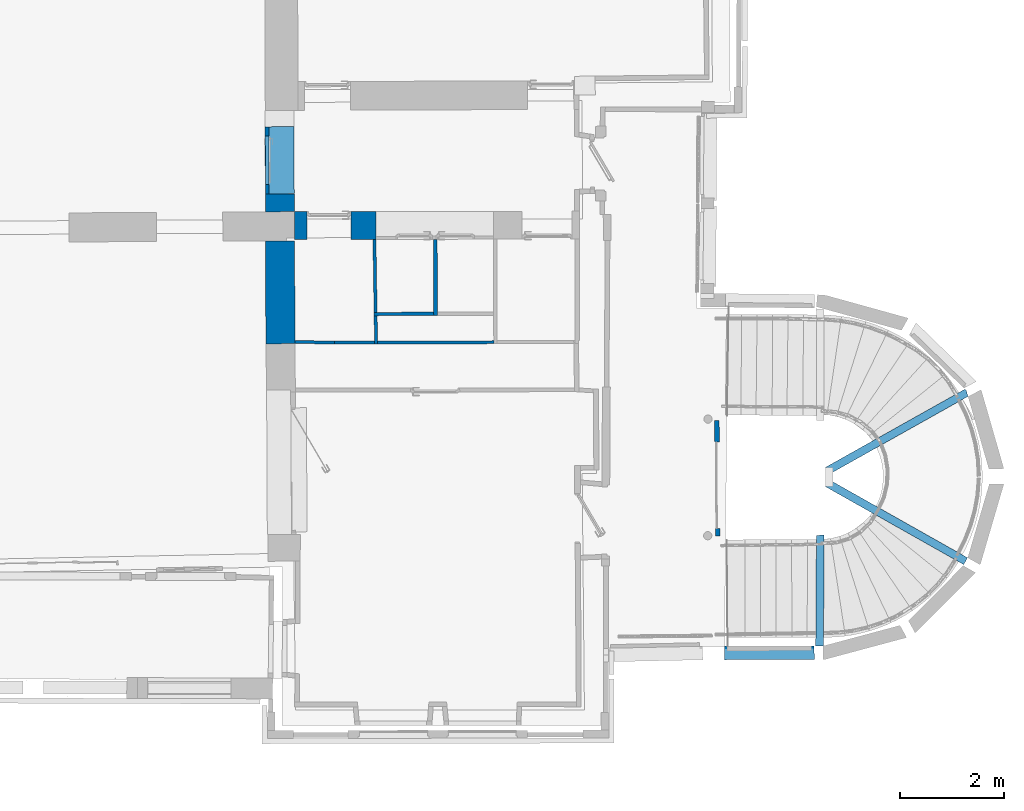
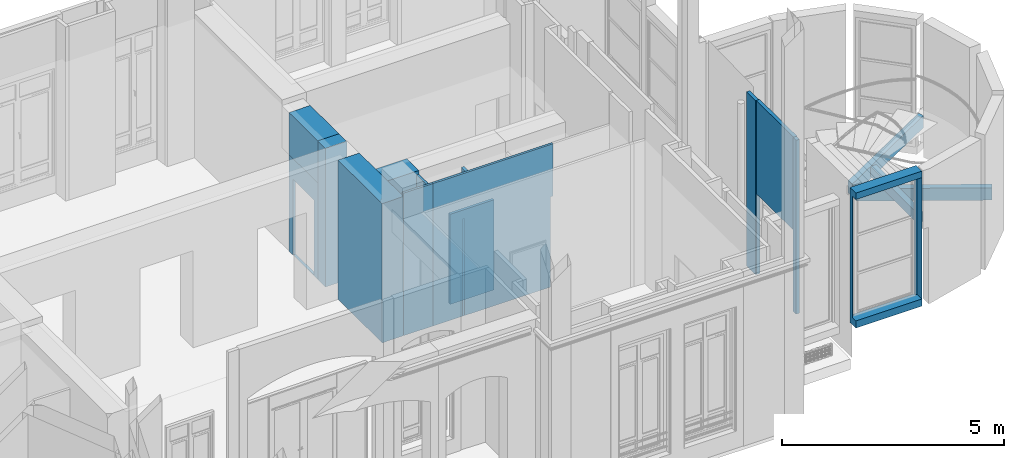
# One storey, part 15 of 97: 17 walls, 4 openings.
"""IFC2X3 building model written with IfcOpenShell, lengths in centimetres."""

from ifc_helpers import new_model, entity, si_unit, converted_unit, direction, frame, origin, origin_with_axes, place, context, subcontext, project, spatial, polyline, outline, extrude, clip, bounded_halfspace, faceted_brep, shape, material, layer, layer_set, layer_usage, type_object, element, save


model = new_model("IFC2X3")

# Units and contexts
model_context = context("Model", 3, precision=0.0001, world=origin(), true_north=direction((0.225632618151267, 0.974212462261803, 0.0)))
body_context = subcontext(model_context, "Body", "Model", "MODEL_VIEW")
footprint_context = subcontext(model_context, "FootPrint", "Model", "MODEL_VIEW")
profile_context = subcontext(model_context, "Profile", "Model", "MODEL_VIEW")
ifc_project = project(units=[si_unit("LENGTHUNIT", "METRE", prefix="CENTI"), si_unit("AREAUNIT", "SQUARE_METRE", prefix="CENTI"), si_unit("VOLUMEUNIT", "CUBIC_METRE", prefix="CENTI"), converted_unit("PLANEANGLEUNIT", "DEGREE", entity("IfcRatioMeasure", 0.0174532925), si_unit("PLANEANGLEUNIT", "RADIAN"), dimensions=[0, 0, 0, 0, 0, 0, 0])], contexts=[model_context])

# Site, building, storey
site_placement = place(None, origin_with_axes())
site = spatial("IfcSite", under=ifc_project, at=site_placement, Name="Default Site", CompositionType="ELEMENT")
building_placement = place(site_placement, origin_with_axes())
building = spatial("IfcBuilding", under=site, at=building_placement, Name="Default Building", CompositionType="ELEMENT")
storey_placement = place(building_placement, origin_with_axes())
storey = spatial("IfcBuildingStorey", under=building, at=storey_placement, Name="Rez-de-chaussée", CompositionType="ELEMENT", Elevation=0.0)

# Wall, opening
ifc_material = material(Name="<aucun>")
ifc_layer_1 = layer(ifc_material, 26.0)
ifc_layer_set_1 = layer_set([ifc_layer_1], Name="default")
ifc_layer_usage_1 = layer_usage(ifc_layer_set_1, "AXIS2", "POSITIVE", -13.0)
wall_type_1 = type_object("IfcWallType", Name="default 260", PredefinedType="NOTDEFINED", material=ifc_layer_set_1)
wall_1_placement = place(storey_placement, frame((1116.61177185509, -885.677420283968, 100.0), z_axis=(0.0, 0.0, 1.0), x_axis=(0.999994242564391, 0.0033933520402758, 0.0)))
wall_1 = element("IfcWallStandardCase", 1, at=wall_1_placement, inside=storey, type_object=wall_type_1, material=ifc_layer_usage_1, Name="Enveloppe 531149", context=body_context, shape_type="SweptSolid", body=[
    extrude(outline(polyline([(-0.107546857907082, 13.0054665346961), (0.164133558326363, -12.9997790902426), (172.280696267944, -13.0000000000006), (172.280696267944, 12.9999999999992), (-0.107546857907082, 13.0054665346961)])), frame((0.0, 0.0, 2.22044604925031e-14), z_axis=(0.0, 0.0, 1.0), x_axis=(1.0, 0.0, 0.0)), (0.0, 0.0, 1.0), 370.795358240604),
])
opening_1_placement = place(wall_1_placement, frame((0.0, 0.0, 19.7999999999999), z_axis=(0.0, 0.0, 1.0), x_axis=(-1.0, 1.42767742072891e-15, 0.0)))
cartesian_point_1 = entity("IfcCartesianPoint", [0.0, 0.0, 333.0])
cartesian_point_2 = entity("IfcCartesianPoint", [-171.871488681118, -13.0000000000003])
element("IfcOpeningElement", 2, at=opening_1_placement, cuts=wall_1, Name="4294966538_11", ObjectType="Opening", shapes=[
    shape(body_context, "Body", "Brep", [faceted_brep([(-4.99996666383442, -32.9999876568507, 332.999987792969), (-166.871473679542, -32.999987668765, 332.999987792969), (-166.871473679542, -32.999987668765, -4.57763675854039e-06), (-4.99996666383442, -32.9999876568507, -4.57763675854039e-06), (2.43071463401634e-05, 33.0000042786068, -4.57763675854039e-06), (-171.871483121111, 33.0000042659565, -4.57763675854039e-06), (-171.871483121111, 33.0000042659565, 332.999987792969), (2.43071463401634e-05, 33.0000042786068, 332.999987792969), (-4.9999666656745, -8.00003430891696, -4.57763675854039e-06), (-4.9999666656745, -8.00003430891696, 332.999987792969), (-5.00001003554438, -8.00003430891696, 332.999987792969), (-5.00001003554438, -8.00003430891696, -4.57763675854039e-06), (3.78541720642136e-05, -8.00003430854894, -4.57763675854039e-06), (3.78541720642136e-05, -8.00003430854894, 332.999987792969), (3.78541720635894e-05, -8.00002582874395, 332.999987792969), (3.78541720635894e-05, -8.00002582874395, -4.57763675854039e-06), (3.78511543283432e-05, 33.0000042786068, -4.57763675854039e-06), (3.78511543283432e-05, 33.0000042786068, 332.999987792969), (-166.871473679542, -33.0000170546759, -4.57763675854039e-06), (-166.871516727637, -7.99996833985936, -4.57763675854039e-06), (-171.87146925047, -7.99997714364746, -4.57763675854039e-06), (-171.871483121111, 32.9999575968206, -4.57763675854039e-06), (-166.871473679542, -33.0000170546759, 332.999987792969), (-166.871473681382, -7.99996833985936, 332.999987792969), (-166.871473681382, -7.99996833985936, -4.57763675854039e-06), (-166.871516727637, -7.99996833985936, 332.999987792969), (-171.87146925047, -7.99996834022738, 332.999987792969), (-171.87146925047, -7.99996834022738, -4.57763675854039e-06), (-171.87146925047, -7.99997714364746, 332.999987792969), (-171.871469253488, 32.9999575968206, 332.999987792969), (-171.871469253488, 32.9999575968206, -4.57763675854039e-06), (-171.871483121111, 32.9999575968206, 332.999987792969)], [[[0, 1, 2, 3]], [[4, 5, 6, 7]], [[0, 3, 8, 9]], [[10, 11, 12, 13]], [[14, 15, 16, 17]], [[3, 18, 19, 20, 21, 4, 15, 11]], [[18, 22, 23, 24]], [[19, 25, 26, 27]], [[20, 28, 29, 30]], [[10, 14, 7, 31, 28, 25, 22, 0]]])]),
    shape(profile_context, "Profile", "GeometricCurveSet", [entity("IfcGeometricCurveSet", [entity("IfcPolyline", [cartesian_point_1, entity("IfcCartesianPoint", [0.0, 0.0, -4.44089209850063e-14]), entity("IfcCartesianPoint", [-171.871488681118, -1.77635683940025e-13, -4.44089209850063e-14]), entity("IfcCartesianPoint", [-171.871488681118, -1.77635683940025e-13, 333.0]), cartesian_point_1])])]),
    shape(footprint_context, "FootPrint", "GeometricCurveSet", [entity("IfcGeometricCurveSet", [entity("IfcPolyline", [cartesian_point_2, entity("IfcCartesianPoint", [0.0, -13.0000000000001]), entity("IfcCartesianPoint", [-1.77635683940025e-13, 13.0000000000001]), entity("IfcCartesianPoint", [-171.871488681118, 13.0000000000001]), cartesian_point_2])])]),
])

ifc_layer_2 = layer(ifc_material, 9.0)
ifc_layer_set_2 = layer_set([ifc_layer_2], Name="default")
ifc_layer_usage_2 = layer_usage(ifc_layer_set_2, "AXIS2", "POSITIVE", -4.5)
wall_type_2 = type_object("IfcWallType", Name="default 90", PredefinedType="NOTDEFINED", material=ifc_layer_set_2)
wall_2_placement = place(storey_placement, frame((1104.95836536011, -647.041932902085, 0.0128503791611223), z_axis=(0.0, 0.0, 1.0), x_axis=(-0.00608463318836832, 0.999981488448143, 0.0)))
wall_2 = element("IfcWallStandardCase", 3, at=wall_2_placement, inside=storey, type_object=wall_type_2, material=ifc_layer_usage_2, Name="Enveloppe 709104", context=body_context, shape_type="SweptSolid", body=[
    extrude(outline(polyline([(-0.0787459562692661, 6.08890522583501), (-0.0504592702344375, -2.91150742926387), (8.88178419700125e-14, -2.91181446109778), (8.88178419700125e-14, -4.50000000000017), (166.455327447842, -4.5000000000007), (166.455327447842, 4.49999999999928), (0.0262404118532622, 4.49999999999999), (0.0212479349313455, 6.08829678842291), (-0.0787459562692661, 6.08890522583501)])), frame((0.0, 0.0, 2.71050543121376e-18), z_axis=(0.0, 0.0, 1.0), x_axis=(1.0, 0.0, 0.0)), (0.0, 0.0, 1.0), 477.795358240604),
])
opening_2_placement = place(wall_2_placement, frame((0.0, 0.0, 1.73472347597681e-18), z_axis=(0.0, 0.0, 1.0), x_axis=(-1.0, 3.53102963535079e-15, 0.0)))
cartesian_point_3 = entity("IfcCartesianPoint", [0.0, 0.0, 221.6])
cartesian_point_4 = entity("IfcCartesianPoint", [-165.996074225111, -4.49999999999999])
element("IfcOpeningElement", 4, at=opening_2_placement, cuts=wall_2, Name="Baie 1527283", ObjectType="Opening", shapes=[
    shape(body_context, "Body", "SweptSolid", [extrude(outline(polyline([(0.0, 221.6), (0.0, 0.0), (165.996074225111, 0.0), (165.996074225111, 221.6), (0.0, 221.6)])), frame((0.0, -14.5, 0.0), z_axis=(0.0, 1.0, 0.0), x_axis=(-1.0, 0.0, 0.0)), (0.0, 0.0, 1.0), 29.0)]),
    shape(profile_context, "Profile", "GeometricCurveSet", [entity("IfcGeometricCurveSet", [entity("IfcPolyline", [cartesian_point_3, entity("IfcCartesianPoint", [0.0, 0.0, 0.0]), entity("IfcCartesianPoint", [-165.996074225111, 1.77635683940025e-13, 0.0]), entity("IfcCartesianPoint", [-165.996074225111, 1.77635683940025e-13, 221.6]), cartesian_point_3])])]),
    shape(footprint_context, "FootPrint", "GeometricCurveSet", [entity("IfcGeometricCurveSet", [entity("IfcPolyline", [cartesian_point_4, entity("IfcCartesianPoint", [0.0, -4.50000000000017]), entity("IfcCartesianPoint", [0.0, 4.49999999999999]), entity("IfcCartesianPoint", [-165.996074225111, 4.50000000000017]), cartesian_point_4])])]),
])

# Walls
ifc_layer_usage_3 = layer_usage(ifc_layer_set_2, "AXIS2", "POSITIVE", -4.5)
wall_3_placement = place(storey_placement, frame((1102.38784192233, -480.578431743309, 0.0128503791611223), z_axis=(0.0, 0.0, 1.0), x_axis=(-0.0131304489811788, 0.999913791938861, 0.0)))
element("IfcWallStandardCase", 5, at=wall_3_placement, inside=storey, type_object=wall_type_2, material=ifc_layer_usage_3, Name="Enveloppe 709039", context=body_context, shape_type="SweptSolid", body=[
    extrude(outline(polyline([(40.9655671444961, 4.49999999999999), (-1.77635683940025e-13, 4.50000000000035), (-0.052441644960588, -4.49999999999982), (40.8686691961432, -4.50233963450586), (40.9655671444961, 4.49999999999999)])), origin_with_axes(), (0.0, 0.0, 1.0), 477.795358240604),
])
ifc_layer_usage_4 = layer_usage(ifc_layer_set_2, "AXIS2", "POSITIVE", -4.5)
wall_4_placement = place(storey_placement, frame((1103.57933822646, -669.715925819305, 0.0128503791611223), z_axis=(0.0, 0.0, 1.0), x_axis=(-0.00922781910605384, 0.999957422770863, 0.0)))
element("IfcWallStandardCase", 6, at=wall_4_placement, inside=storey, type_object=wall_type_2, material=ifc_layer_usage_4, Name="Enveloppe 1528099", context=body_context, shape_type="SweptSolid", body=[
    extrude(outline(polyline([(22.6006871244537, 4.50000000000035), (9.08167034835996, 4.50000000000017), (9.04301342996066, -4.49999999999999), (22.6006871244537, -4.49999999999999), (22.6006871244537, 4.50000000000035)])), frame((0.0, 0.0, -3.10867867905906e-13), z_axis=(0.0, 0.0, 1.0), x_axis=(1.0, 0.0, 0.0)), (0.0, 0.0, 1.0), 477.795358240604),
])
ifc_layer_3 = layer(ifc_material, 15.0)
ifc_layer_set_3 = layer_set([ifc_layer_3], Name="default")
ifc_layer_usage_5 = layer_usage(ifc_layer_set_3, "AXIS2", "POSITIVE", -7.5)
wall_type_3 = type_object("IfcWallType", Name="default 150", PredefinedType="NOTDEFINED", material=ifc_layer_set_3)
wall_5_placement = place(storey_placement, frame((1313.89416104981, -535.964667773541, 180.0), z_axis=(0.0, 0.0, 1.0), x_axis=(0.872240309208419, 0.489077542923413, 0.0)))
element("IfcWallStandardCase", 7, at=wall_5_placement, inside=storey, type_object=wall_type_3, material=ifc_layer_usage_5, Name="Enveloppe 680482", context=body_context, shape_type="SweptSolid", body=[
    extrude(outline(polyline([(0.0, 7.50000000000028), (-8.37658710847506, -7.49999999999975), (305.479179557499, -7.50000000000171), (308.227331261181, 4.18805006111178), (307.24358979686, 7.49999999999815), (0.0, 7.50000000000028)])), origin_with_axes(), (0.0, 0.0, 1.0), 33.795358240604),
])
ifc_layer_usage_6 = layer_usage(ifc_layer_set_3, "AXIS2", "POSITIVE", -7.5)
wall_6_placement = place(storey_placement, frame((1579.44900561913, -709.420802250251, 180.0), z_axis=(0.0, 0.0, 1.0), x_axis=(-0.870947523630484, 0.491376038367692, 0.0)))
element("IfcWallStandardCase", 8, at=wall_6_placement, inside=storey, type_object=wall_type_3, material=ifc_layer_usage_6, Name="Enveloppe 691032", context=body_context, shape_type="SweptSolid", body=[
    extrude(outline(polyline([(313.307552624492, -7.50000000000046), (304.810474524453, 7.49999999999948), (-7.105427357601e-13, 7.49999999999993), (-7.105427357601e-13, -7.50000000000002), (313.307552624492, -7.50000000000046)])), origin_with_axes(), (0.0, 0.0, 1.0), 33.795358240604),
])
ifc_layer_usage_7 = layer_usage(ifc_layer_set_3, "AXIS2", "POSITIVE", -7.5)
wall_7_placement = place(storey_placement, frame((1299.18732229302, -871.984776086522, 310.0), z_axis=(0.0, 0.0, 1.0), x_axis=(0.00630576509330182, 0.999980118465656, 0.0)))
element("IfcWallStandardCase", 9, at=wall_7_placement, inside=storey, type_object=wall_type_3, material=ifc_layer_usage_7, Name="Enveloppe 691254", context=body_context, shape_type="SweptSolid", body=[
    extrude(outline(polyline([(-0.170921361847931, 7.49999999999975), (-0.16469156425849, -6.9297168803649), (-0.00792577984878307, -7.49999999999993), (212.463107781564, -7.49999999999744), (212.394848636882, 1.07629177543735), (212.294850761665, 1.07566119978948), (212.222646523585, 7.50000000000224), (-0.170921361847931, 7.49999999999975)])), frame((0.0, 0.0, -8.88178419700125e-14), z_axis=(0.0, 0.0, 1.0), x_axis=(1.0, 0.0, 0.0)), (0.0, 0.0, 1.0), 27.795358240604),
])

# Wall, opening
ifc_layer_4 = layer(ifc_material, 7.0)
ifc_layer_set_4 = layer_set([ifc_layer_4], Name="default")
ifc_layer_usage_8 = layer_usage(ifc_layer_set_4, "AXIS2", "POSITIVE", -3.5)
wall_type_4 = type_object("IfcWallType", Name="default 70", PredefinedType="NOTDEFINED", material=ifc_layer_set_4)
wall_8_placement = place(storey_placement, frame((238.895227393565, -4.32524530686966, 0.0128503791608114), z_axis=(0.0, 0.0, 1.0), x_axis=(-0.00550813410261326, 0.999984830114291, 0.0)))
wall_8 = element("IfcWallStandardCase", 10, at=wall_8_placement, inside=storey, type_object=wall_type_4, material=ifc_layer_usage_8, Name="Enveloppe 30316", context=body_context, shape_type="SweptSolid", body=[
    extrude(outline(polyline([(129.01399484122, 3.50000000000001), (3.0340031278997e-06, 3.50055080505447), (4.90024687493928e-11, -3.50000000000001), (128.91399484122, -3.49999999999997), (128.913996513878, 3.15424038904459), (129.01399484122, 3.15368957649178), (129.01399484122, 3.50000000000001)])), origin_with_axes(), (0.0, 0.0, 1.0), 264.987149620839),
])
opening_3_placement = place(wall_8_placement, frame((17.97319585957, 2.8421709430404e-14, 0.558882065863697), z_axis=(0.0, 0.0, 1.0), x_axis=(-1.0, -3.90312782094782e-17, 0.0)))
cartesian_point_5 = entity("IfcCartesianPoint", [-1.11022302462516e-14, 0.0, 207.0])
cartesian_point_6 = entity("IfcCartesianPoint", [-92.9766112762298, -3.49999999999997])
element("IfcOpeningElement", 11, at=opening_3_placement, cuts=wall_8, Name="4294966343_11", ObjectType="Opening", shapes=[
    shape(body_context, "Body", "SweptSolid", [extrude(outline(polyline([(1.38777878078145e-14, 207.0), (0.0, 0.0), (92.9766112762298, 0.0), (92.9766112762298, 207.0), (1.38777878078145e-14, 207.0)])), frame((0.0, -13.5, 0.0), z_axis=(0.0, 1.0, 0.0), x_axis=(-1.0, 0.0, 0.0)), (0.0, 0.0, 1.0), 27.0)]),
    shape(profile_context, "Profile", "GeometricCurveSet", [entity("IfcGeometricCurveSet", [entity("IfcPolyline", [cartesian_point_5, entity("IfcCartesianPoint", [2.77555756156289e-15, 0.0, 0.0]), entity("IfcCartesianPoint", [-92.9766112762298, 0.0, 0.0]), entity("IfcCartesianPoint", [-92.9766112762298, 0.0, 207.0]), cartesian_point_5])])]),
    shape(footprint_context, "FootPrint", "GeometricCurveSet", [entity("IfcGeometricCurveSet", [entity("IfcPolyline", [cartesian_point_6, entity("IfcCartesianPoint", [0.0, -3.49999999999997]), entity("IfcCartesianPoint", [0.0, 3.50000000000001]), entity("IfcCartesianPoint", [-92.9766112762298, 3.50000000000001]), cartesian_point_6])])]),
])

# Walls
ifc_layer_5 = layer(ifc_material, 55.2076599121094)
ifc_layer_set_5 = layer_set([ifc_layer_5], Name="default")
ifc_layer_usage_9 = layer_usage(ifc_layer_set_5, "AXIS2", "POSITIVE", -27.604)
wall_type_5 = type_object("IfcWallType", Name="default 552.076599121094", PredefinedType="NOTDEFINED", material=ifc_layer_set_5)
wall_9_placement = place(storey_placement, frame((263.341986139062, -66.4856583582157, 0.0128503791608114), z_axis=(0.0, 0.0, 1.0), x_axis=(-0.00550813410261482, 0.999984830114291, 0.0)))
element("IfcWallStandardCase", 12, at=wall_9_placement, inside=storey, type_object=wall_type_5, material=ifc_layer_usage_9, Name="Enveloppe 30047", context=body_context, shape_type="Clipping", body=[
    clip(clip(clip(extrude(outline(polyline([(62.3941261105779, 27.9267704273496), (27.9273560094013, 28.0045104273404), (27.9158725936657, -27.604), (62.3941261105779, -27.604), (62.3941261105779, 27.9267704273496)])), frame((0.0, 0.0, -2.71050543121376e-18), z_axis=(0.0, 0.0, 1.0), x_axis=(1.0, 0.0, 0.0)), (0.0, 0.0, 1.0), 380.695358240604), bounded_halfspace(frame((62.3941261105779, 27.9267704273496, 264.987149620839), z_axis=(0.0, 0.0, 1.0), x_axis=(8.39606162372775e-16, -1.0, 0.0)), True, frame((62.3941261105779, 27.9267704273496, 264.987149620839), z_axis=(0.0, 0.0, 1.0), x_axis=(1.0, 0.0, 0.0)), polyline([(-0.0999999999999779, -0.32277042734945), (-0.100000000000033, 0.000190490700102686), (0.0, -4.44089209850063e-14), (0.0, -0.32277042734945), (-0.0999999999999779, -0.32277042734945)]))), bounded_halfspace(frame((62.2941261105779, -27.604, 264.987149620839), z_axis=(0.0, 0.0, 1.0), x_axis=(3.38271077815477e-17, 1.0, 0.0)), True, frame((62.2941261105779, -27.604, 264.987149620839), z_axis=(0.0, 0.0, 1.0), x_axis=(1.0, 0.0, 0.0)), polyline([(0.0, 0.0), (0.0, 48.2080000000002), (0.100000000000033, 48.2080000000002), (0.100000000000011, -8.88178419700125e-14), (0.0, 0.0)]))), bounded_halfspace(frame((62.2941261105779, 20.6040000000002, 264.987149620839), z_axis=(0.0, 0.0, 1.0), x_axis=(6.81312645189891e-15, 1.0, 0.0)), True, frame((62.2941261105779, 20.6040000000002, 264.987149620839), z_axis=(0.0, 0.0, 1.0), x_axis=(1.0, 0.0, 0.0)), polyline([(0.0, 0.0), (5.55111512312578e-14, 6.99999999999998), (0.100000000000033, 6.99999999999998), (0.100000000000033, 0.0), (0.0, 0.0)]))),
])
ifc_layer_usage_10 = layer_usage(ifc_layer_set_5, "AXIS2", "POSITIVE", -27.604)
wall_10_placement = place(storey_placement, frame((262.998861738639, -4.19247724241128, 265.0), z_axis=(0.0, 0.0, 1.0), x_axis=(-0.00550813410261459, 0.999984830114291, 0.0)))
element("IfcWallStandardCase", 13, at=wall_10_placement, inside=storey, type_object=wall_type_5, material=ifc_layer_usage_10, Name="Enveloppe 30314", context=body_context, shape_type="SweptSolid", body=[
    extrude(outline(polyline([(128.913994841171, 27.6813917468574), (0.100000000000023, 27.9267704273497), (0.100000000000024, -27.604), (128.913994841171, -27.604), (128.913994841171, 27.6813917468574)])), origin_with_axes(), (0.0, 0.0, 1.0), 115.708208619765),
])
ifc_layer_usage_11 = layer_usage(ifc_layer_set_5, "AXIS2", "POSITIVE", -27.604)
wall_11_placement = place(storey_placement, frame((263.889679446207, -288.472700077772, 0.0128503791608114), z_axis=(0.0, 0.0, 1.0), x_axis=(-0.00303669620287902, 0.999995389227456, 0.0)))
element("IfcWallStandardCase", 14, at=wall_11_placement, inside=storey, type_object=wall_type_5, material=ifc_layer_usage_11, Name="Enveloppe 2907", context=body_context, shape_type="SweptSolid", body=[
    extrude(outline(polyline([(194.002240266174, 28.0405794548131), (-2.40585913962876, 27.8533001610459), (-3.9203318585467, 27.8332174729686), (-3.18141441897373, -27.8899157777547), (-3.18671657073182, -28.2710091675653), (2.55983953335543, -28.2710091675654), (194.128464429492, -27.6885043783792), (194.002240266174, 28.0405794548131)])), frame((0.0, 0.0, -2.71050543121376e-18), z_axis=(0.0, 0.0, 1.0), x_axis=(1.0, 0.0, 0.0)), (0.0, 0.0, 1.0), 382.495358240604),
])
ifc_layer_6 = layer(ifc_material, 6.6175895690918)
ifc_layer_set_6 = layer_set([ifc_layer_6], Name="default")
ifc_layer_usage_12 = layer_usage(ifc_layer_set_6, "AXIS2", "POSITIVE", -3.309)
wall_type_6 = type_object("IfcWallType", Name="default 66.175895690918", PredefinedType="NOTDEFINED", material=ifc_layer_set_6)
wall_12_placement = place(storey_placement, frame((449.609429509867, -234.921375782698, 0.0128503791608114), z_axis=(0.0, 0.0, 1.0), x_axis=(0.99999741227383, 0.00227496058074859, 0.0)))
element("IfcWallStandardCase", 15, at=wall_12_placement, inside=storey, type_object=wall_type_6, material=ifc_layer_usage_12, Name="Enveloppe 3381", context=body_context, shape_type="SweptSolid", body=[
    extrude(outline(polyline([(-5.8306790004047, 3.30879467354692), (-5.74357311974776, -3.30879467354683), (108.776357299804, -3.30879467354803), (108.756449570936, 3.30879467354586), (-5.8306790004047, 3.30879467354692)])), frame((0.0, 0.0, -2.71050543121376e-18), z_axis=(0.0, 0.0, 1.0), x_axis=(1.0, 0.0, 0.0)), (0.0, 0.0, 1.0), 247.861599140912),
])

# Wall, opening
ifc_layer_7 = layer(ifc_material, 53.6174377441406)
ifc_layer_set_7 = layer_set([ifc_layer_7], Name="default")
ifc_layer_usage_13 = layer_usage(ifc_layer_set_7, "AXIS2", "POSITIVE", -26.809)
wall_type_7 = type_object("IfcWallType", Name="default 536.174377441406", PredefinedType="NOTDEFINED", material=ifc_layer_set_7)
wall_13_placement = place(storey_placement, frame((290.944212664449, -64.8272853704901, 0.0128503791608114), z_axis=(0.0, 0.0, 1.0), x_axis=(0.99999959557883, 0.000899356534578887, 0.0)))
wall_13 = element("IfcWallStandardCase", 16, at=wall_13_placement, inside=storey, type_object=wall_type_7, material=ifc_layer_usage_13, Name="Enveloppe 5982", context=body_context, shape_type="Clipping", body=[
    clip(clip(clip(extrude(outline(polyline([(-0.128658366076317, 26.4092490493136), (0.277048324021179, 26.41103510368), (0.277048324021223, -26.8087187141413), (156.658869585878, -26.8087187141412), (156.658869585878, -20.9588056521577), (156.490222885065, -20.958653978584), (156.490222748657, 26.8087187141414), (-0.130499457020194, 26.8087187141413), (-0.128658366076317, 26.4092490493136)])), origin_with_axes(), (0.0, 0.0, 1.0), 277.995358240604), bounded_halfspace(frame((156.490222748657, 26.8087187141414, 205.0), z_axis=(0.0, 0.0, 1.0), x_axis=(1.10371781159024e-15, -1.0, 0.0)), True, frame((156.490222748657, 26.8087187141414, 205.0), z_axis=(0.0, 0.0, 1.0), x_axis=(1.0, 0.0, 0.0)), polyline([(-0.0313531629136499, -47.7675243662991), (-0.0313531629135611, 5.55111512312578e-15), (0.0, 5.55111512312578e-15), (1.77635683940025e-13, -47.7675243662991), (-0.0313531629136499, -47.7675243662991)]))), bounded_halfspace(frame((156.658869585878, -20.9588056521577, 205.0), z_axis=(0.0, 0.0, -1.0), x_axis=(-1.0, 3.77545217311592e-14, 0.0)), True, frame((156.658869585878, -20.9588056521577, 205.0), z_axis=(0.0, 0.0, 1.0), x_axis=(1.0, 0.0, 0.0)), polyline([(-0.168646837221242, -5.84991306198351), (1.77635683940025e-13, -5.84991306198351), (0.0, -1.11022302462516e-14), (-0.168646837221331, 0.0), (-0.168646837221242, -5.84991306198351)]))), bounded_halfspace(frame((156.490222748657, 26.8087187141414, 267.795358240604), z_axis=(0.0, 0.0, -1.0), x_axis=(-1.0, -1.13669924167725e-14, 0.0)), True, frame((156.490222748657, 26.8087187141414, 267.795358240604), z_axis=(0.0, 0.0, 1.0), x_axis=(1.0, 0.0, 0.0)), polyline([(-0.405439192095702, -53.6174374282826), (2.66453525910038e-13, -53.6174374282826), (0.0, 5.55111512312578e-15), (-0.405439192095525, 0.0), (-0.405439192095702, -53.6174374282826)]))),
])
opening_4_placement = place(wall_13_placement, frame((23.7182939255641, 2.8421709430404e-14, -1.33226762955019e-13), z_axis=(0.0, 0.0, 1.0), x_axis=(-1.0, -5.71049284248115e-16, 0.0)))
cartesian_point_7 = entity("IfcCartesianPoint", [0.0, 1.11022302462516e-14, 203.0])
cartesian_point_8 = entity("IfcCartesianPoint", [-85.2347167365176, -26.8087187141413])
element("IfcOpeningElement", 17, at=opening_4_placement, cuts=wall_13, Name="4294966345_11", ObjectType="Opening", shapes=[
    shape(body_context, "Body", "SweptSolid", [extrude(outline(polyline([(0.0, 203.0), (0.0, 0.0), (85.2347167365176, 0.0), (85.2347167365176, 203.0), (0.0, 203.0)])), frame((0.0, -36.8087187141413, 0.0), z_axis=(0.0, 1.0, 0.0), x_axis=(-1.0, 0.0, 0.0)), (0.0, 0.0, 1.0), 73.6174374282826)]),
    shape(profile_context, "Profile", "GeometricCurveSet", [entity("IfcGeometricCurveSet", [entity("IfcPolyline", [cartesian_point_7, entity("IfcCartesianPoint", [0.0, 1.11022302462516e-14, 0.0]), entity("IfcCartesianPoint", [-85.2347167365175, 1.11022302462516e-14, 0.0]), entity("IfcCartesianPoint", [-85.2347167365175, 1.11022302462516e-14, 203.0]), cartesian_point_7])])]),
    shape(footprint_context, "FootPrint", "GeometricCurveSet", [entity("IfcGeometricCurveSet", [entity("IfcPolyline", [cartesian_point_8, entity("IfcCartesianPoint", [0.0, -26.8087187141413]), entity("IfcCartesianPoint", [0.0, 26.8087187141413]), entity("IfcCartesianPoint", [-85.2347167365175, 26.8087187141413]), cartesian_point_8])])]),
])

# Walls
ifc_layer_8 = layer(ifc_material, 5.74674491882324)
ifc_layer_set_8 = layer_set([ifc_layer_8], Name="default")
ifc_layer_usage_14 = layer_usage(ifc_layer_set_8, "AXIS2", "POSITIVE", -2.873)
wall_type_8 = type_object("IfcWallType", Name="default 57.4674491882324", PredefinedType="NOTDEFINED", material=ifc_layer_set_8)
wall_14_placement = place(storey_placement, frame((367.406488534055, -289.518638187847, 0.0128503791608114), z_axis=(0.0, 0.0, 1.0), x_axis=(-0.999940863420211, 0.0108751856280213, 0.0)))
element("IfcWallStandardCase", 18, at=wall_14_placement, inside=storey, type_object=wall_type_8, material=ifc_layer_usage_14, Name="Enveloppe 3594", context=body_context, shape_type="Clipping", body=[
    clip(clip(extrude(outline(polyline([(75.7467544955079, -2.87299999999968), (75.5905866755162, 2.87300000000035), (-0.10045464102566, 2.87176718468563), (-0.0299338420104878, -2.87454490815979), (75.7467544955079, -2.87299999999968)])), frame((0.0, 0.0, -2.71050543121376e-18), z_axis=(0.0, 0.0, 1.0), x_axis=(1.0, 0.0, 0.0)), (0.0, 0.0, 1.0), 391.395358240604), bounded_halfspace(frame((75.5905866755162, 2.87300000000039, 382.495358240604), z_axis=(0.0, 0.0, 1.0), x_axis=(0.021332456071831, -0.999772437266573, 0.0)), True, frame((75.5905866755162, 2.87300000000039, 382.495358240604), z_axis=(0.0, 0.0, 1.0), x_axis=(1.0, 0.0, 0.0)), polyline([(-0.381130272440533, -4.44089209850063e-14), (0.0, 0.0), (0.0810931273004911, -3.80053160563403), (0.103276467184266, -3.79992869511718), (0.156167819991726, -5.74600000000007), (-0.301186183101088, -5.74600000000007), (-0.381130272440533, -4.44089209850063e-14)]))), bounded_halfspace(frame((75.5905866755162, 2.87300000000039, 382.495358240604), z_axis=(0.0, 0.0, 1.0), x_axis=(0.027168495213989, -0.9996308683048, 0.0)), True, frame((75.5905866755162, 2.87300000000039, 382.495358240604), z_axis=(0.0, 0.0, 1.0), x_axis=(1.0, 0.0, 0.0)), polyline([(0.0, 0.0), (0.103276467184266, -3.79992869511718), (0.0810931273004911, -3.80053160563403), (0.0, 0.0)]))),
])
ifc_layer_usage_15 = layer_usage(ifc_layer_set_8, "AXIS2", "POSITIVE", -2.873)
wall_15_placement = place(storey_placement, frame((367.371231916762, -289.518098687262, 0.0128503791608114), z_axis=(0.0, 0.0, 1.0), x_axis=(0.999999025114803, 0.00139634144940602, 0.0)))
element("IfcWallStandardCase", 19, at=wall_15_placement, inside=storey, type_object=wall_type_8, material=ifc_layer_usage_15, Name="Enveloppe 3523", context=body_context, shape_type="Clipping", body=[
    clip(clip(clip(extrude(outline(polyline([(80.2174129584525, 2.87337240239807), (0.100462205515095, 2.873372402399), (0.100462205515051, -2.87337240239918), (80.2174129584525, -2.87337240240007), (312.850236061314, -2.87337240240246), (312.850236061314, 2.87337240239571), (80.2174129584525, 2.87337240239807)])), frame((0.0, 0.0, -2.71050543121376e-18), z_axis=(0.0, 0.0, 1.0), x_axis=(1.0, 0.0, 0.0)), (0.0, 0.0, 1.0), 391.395358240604), bounded_halfspace(frame((77.3325147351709, -2.87337240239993, 267.795358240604), z_axis=(0.0, 0.0, 1.0), x_axis=(-0.0140401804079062, 0.999901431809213, 0.0)), True, frame((77.3325147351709, -2.87337240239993, 267.795358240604), z_axis=(0.0, 0.0, 1.0), x_axis=(1.0, 0.0, 0.0)), polyline([(-0.080693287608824, 5.746744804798), (2.88489822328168, 5.746744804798), (2.88489822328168, -1.33226762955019e-13), (8.88178419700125e-14, 0.0), (-0.080693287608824, 5.746744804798)]))), bounded_halfspace(frame((306.232639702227, 2.87337240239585, 247.861599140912), z_axis=(0.0, 0.0, 1.0), x_axis=(1.0, -1.40985313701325e-14, 0.0)), True, frame((306.232639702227, 2.87337240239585, 247.861599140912), z_axis=(0.0, 0.0, 1.0), x_axis=(1.0, 0.0, 0.0)), polyline([(0.00836580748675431, -5.74674480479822), (8.88178419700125e-14, -4.44089209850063e-14), (6.61759635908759, -1.33226762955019e-13), (6.61759635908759, -5.74674480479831), (0.00836580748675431, -5.74674480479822)]))), bounded_halfspace(frame((80.2174129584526, 2.87337240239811, 267.795358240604), z_axis=(0.0, 0.0, 1.0), x_axis=(1.0, -1.54396894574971e-14, 0.0)), True, frame((80.2174129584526, 2.87337240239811, 267.795358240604), z_axis=(0.0, 0.0, 1.0), x_axis=(1.0, 0.0, 0.0)), polyline([(8.88178419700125e-14, -5.74674480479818), (8.88178419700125e-14, -4.44089209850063e-14), (2.8848982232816, -8.88178419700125e-14), (2.96559151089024, -5.74674480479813), (8.88178419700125e-14, -5.74674480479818)]))),
])
ifc_layer_9 = layer(ifc_material, 7.34207077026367)
ifc_layer_set_9 = layer_set([ifc_layer_9], Name="default")
ifc_layer_usage_16 = layer_usage(ifc_layer_set_9, "AXIS2", "POSITIVE", -3.671)
wall_type_9 = type_object("IfcWallType", Name="default 73.4207077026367", PredefinedType="NOTDEFINED", material=ifc_layer_set_9)
wall_16_placement = place(storey_placement, frame((562.029054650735, -231.345829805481, 0.0128503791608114), z_axis=(0.0, 0.0, 1.0), x_axis=(-0.00528323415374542, 0.999986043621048, 0.0)))
element("IfcWallStandardCase", 20, at=wall_16_placement, inside=storey, type_object=wall_type_9, material=ifc_layer_usage_16, Name="Enveloppe 3325", context=body_context, shape_type="SweptSolid", body=[
    extrude(outline(polyline([(139.970998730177, 3.67103534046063), (-6.61756758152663, 3.67103534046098), (-6.63965477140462, -3.67103534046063), (139.938811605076, -3.67103534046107), (139.970998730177, 3.67103534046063)])), frame((0.0, 0.0, -2.71050543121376e-18), z_axis=(0.0, 0.0, 1.0), x_axis=(1.0, 0.0, 0.0)), (0.0, 0.0, 1.0), 247.861599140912),
])
ifc_layer_10 = layer(ifc_material, 5.84991302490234)
ifc_layer_set_10 = layer_set([ifc_layer_10], Name="default")
ifc_layer_usage_17 = layer_usage(ifc_layer_set_10, "AXIS2", "POSITIVE", -2.925)
wall_type_10 = type_object("IfcWallType", Name="default 58.4991302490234", PredefinedType="NOTDEFINED", material=ifc_layer_set_10)
wall_17_placement = place(storey_placement, frame((447.544557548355, -286.55542542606, 0.0128503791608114), z_axis=(0.0, 0.0, 1.0), x_axis=(-0.0154363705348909, 0.999880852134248, 0.0)))
element("IfcWallStandardCase", 21, at=wall_17_placement, inside=storey, type_object=wall_type_10, material=ifc_layer_usage_17, Name="Enveloppe 11540", context=body_context, shape_type="Clipping", body=[
    clip(clip(extrude(outline(polyline([(195.123310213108, 2.9249565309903), (51.6336909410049, 2.92495653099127), (-5.68358674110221, 2.92495653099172), (-5.76572867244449, -2.92495653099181), (51.6336909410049, -2.92495653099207), (195.03826036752, -2.92495653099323), (195.123310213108, 2.9249565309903)])), frame((0.0, 0.0, -5.42101086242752e-18), z_axis=(0.0, 0.0, 1.0), x_axis=(1.0, 0.0, 0.0)), (0.0, 0.0, 1.0), 267.795358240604), bounded_halfspace(frame((51.6336909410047, 2.92495653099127, 247.861599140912), z_axis=(0.0, 0.0, 1.0), x_axis=(-7.35522753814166e-15, -1.0, 0.0)), True, frame((51.6336909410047, 2.92495653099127, 247.861599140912), z_axis=(0.0, 0.0, 1.0), x_axis=(1.0, 0.0, 0.0)), polyline([(-3.34758186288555, -5.84991306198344), (-3.27058073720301, -1.77635683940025e-13), (0.0, 0.0), (-4.44089209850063e-14, -5.84991306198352), (-3.34758186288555, -5.84991306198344)]))), bounded_halfspace(frame((51.6336909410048, 2.92495653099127, 247.861599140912), z_axis=(0.0, 0.0, 1.0), x_axis=(1.0, -4.58019039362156e-14, 0.0)), True, frame((51.6336909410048, 2.92495653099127, 247.861599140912), z_axis=(0.0, 0.0, 1.0), x_axis=(1.0, 0.0, 0.0)), polyline([(0.0, -5.84991306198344), (0.0, 0.0), (3.34758186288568, -1.77635683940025e-13), (3.27058073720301, -5.84991306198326), (0.0, -5.84991306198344)]))),
])

save(model, "model.ifc")
